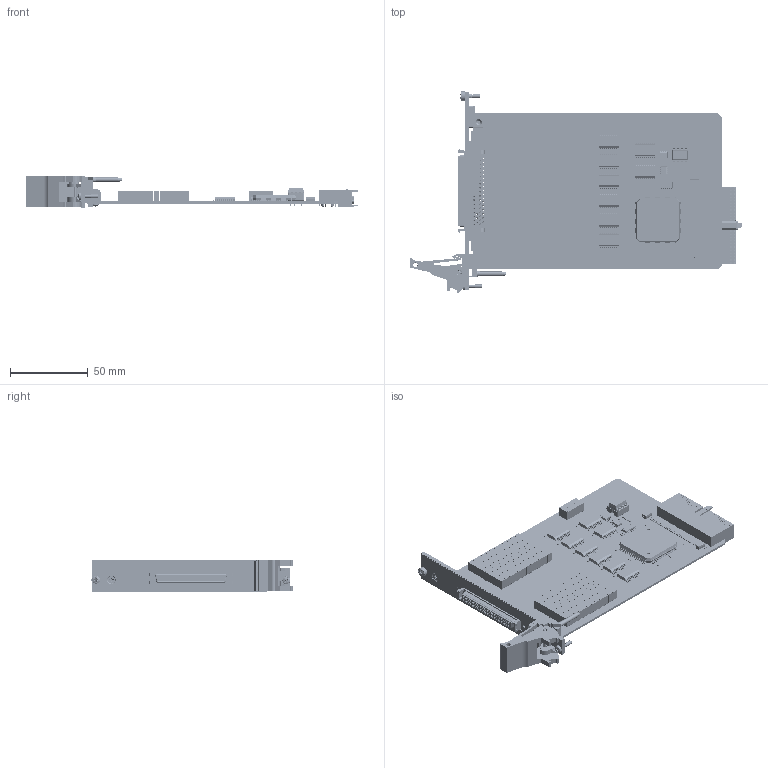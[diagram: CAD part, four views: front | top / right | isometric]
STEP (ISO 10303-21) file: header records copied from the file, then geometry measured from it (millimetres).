
FILE_DESCRIPTION (( 'STEP AP214' ), '1' );
FILE_NAME ('40-632-021-48-1 48CH 1POLE MUX.STEP', '2018-04-03T09:44:51', ( '' ), ( '' ), 'SwSTEP 2.0', 'SolidWorks 2017', '' );
FILE_SCHEMA (( 'AUTOMOTIVE_DESIGN' ));
Length unit declared in the file: millimetre
Products named in the file (39): C-FX-025 Pcb Mounting Bracket; C-FX-165 CPCI Ejector Handle; C-RS-085 Res 150R 0805; C-FX-042 Screw M2.5x6 CSK Pozi_M 2.5x06 - C-FX-042; C-BK-026 Bush Front Panel Mounting; A-PC-196-# PXI Config MUX PCB Assy; C-IC-087 IC 74HCT32D Logic IC Smt_No Text; C-RS-102 RES 4x10R 1206 1-16W 5% 200PPM; C-IC-090 IC M 93C56_No Text; L-FX-165 PXI Handle Label; C-RS-079 Res N-W 4x10K 1206 CRA3A4E10K; C-FX-101 M2.5x6mm Pan Head Cross Recess Screw_ISO_ISO 7045 - M2.5 x 6 - Z --- 6N; C-FX-165 Handle Pin; C-FX-524 Screw 2-56UNC 3-16`` PanHD Pozi_ISO 7045 - M2.5 x 6 - Z --- 6N; L-FP-148 Label Assy; A-PC-196-V04 PXI 24CH 2PL MUX; C-CN-363 Connector female SCSI 68-pin; L-FP-148-# Label for C-FP-148; P-FX-017 M2,5 Collar Posi-Slot Screw; C-IC-099 DIP8 Package_No Text; C-BP-015 PXI 3U x 1 Slot Blank Panel; C-FX-165 Handle Finger; C-IC-102 IC 74ACT273 SMD_Without Pckage Description; C-IC-100 IC 74HCT273 SMD_Without Pckage Description; C-PC-196 PXI MULTIPLEXER CONFIG; C-IC-056 IC TL7705ACD SMT_No Text; C-IC-101 IC 74HCT244 SMD; C-CP-160 Cap 10uF 16V Tant Smt (C.CASE); Z-FX-2001 FP Fixing - Bush + Screw; A-FP-148 Front Panel C-FP-148 Assembly; C-IC-219 PLX PCI9052; C-CN-355 Compact pci connector 3_Render; C-FP-148 PXI 1-Slot SCSI 68 Way; 40-632-021-48-1 48CH 1POLE MUX; C-FX-165 Handle Body; C-CN-035 SOCKET IC 8 WAY DIL low profil_Vychoz｡; C-CP-034; C-RL-096 109P-1-A-5-471D; A-FP-148-L1 PXI 1-slot SCSI 68 WAY
Assembly tree (130 placements, depth 5):
  40-632-021-48-1 48CH 1POLE MUX
    A-PC-196-V04 PXI 24CH 2PL MUX
      A-PC-196-# PXI Config MUX PCB Assy
        C-PC-196 PXI MULTIPLEXER CONFIG
        C-CN-355 Compact pci connector 3_Render
        C-IC-219 PLX PCI9052
        C-IC-099 DIP8 Package_No Text
        C-CN-035 SOCKET IC 8 WAY DIL low profil_Vychoz｡
        C-CN-363 Connector female SCSI 68-pin
        C-CP-160 Cap 10uF 16V Tant Smt (C.CASE)  x2
        C-RS-102 RES 4x10R 1206 1-16W 5% 200PPM  x12
        C-FX-524 Screw 2-56UNC 3-16`` PanHD Pozi_ISO 7045 - M2.5 x 6 - Z --- 6N  x2
        C-IC-056 IC TL7705ACD SMT_No Text
        C-IC-090 IC M 93C56_No Text
        C-IC-101 IC 74HCT244 SMD
        C-IC-100 IC 74HCT273 SMD_Without Pckage Description
        C-IC-087 IC 74HCT32D Logic IC Smt_No Text
        C-RS-079 Res N-W 4x10K 1206 CRA3A4E10K  x2
        C-IC-102 IC 74ACT273 SMD_Without Pckage Description  x6
        C-CP-034  x22
        C-RS-085 Res 150R 0805
      C-RL-096 109P-1-A-5-471D  x49
    C-RL-096 109P-1-A-5-471D
    A-FP-148-L1 PXI 1-slot SCSI 68 WAY
      A-FP-148 Front Panel C-FP-148 Assembly
        C-FP-148 PXI 1-Slot SCSI 68 Way
          C-BP-015 PXI 3U x 1 Slot Blank Panel
        L-FP-148 Label Assy
          L-FP-148-# Label for C-FP-148
      Z-FX-2001 FP Fixing - Bush + Screw
        C-BK-026 Bush Front Panel Mounting
        P-FX-017 M2,5 Collar Posi-Slot Screw
      C-FX-165 CPCI Ejector Handle
        C-FX-165 Handle Body
        C-FX-165 Handle Finger
        C-FX-165 Handle Pin
        P-FX-017 M2,5 Collar Posi-Slot Screw
        L-FX-165 PXI Handle Label
      C-FX-025 Pcb Mounting Bracket
      C-FX-042 Screw M2.5x6 CSK Pozi_M 2.5x06 - C-FX-042
      C-FX-101 M2.5x6mm Pan Head Cross Recess Screw_ISO_ISO 7045 - M2.5 x 6 - Z --- 6N
    C-FX-101 M2.5x6mm Pan Head Cross Recess Screw_ISO_ISO 7045 - M2.5 x 6 - Z --- 6N  x2
Bounding box: 213.99 x 129.67 x 20 mm (x, y, z)
Volume: 70129.5 mm3; surface area: 94911.7 mm2
Topology: 196 solids, 223 shells, 29398 faces, 76340 edges, 49950 vertices
Faces by surface type: plane 21696, bspline 4001, cylinder 3368, cone 239, torus 71, sphere 23
Entity records: 384502 total; most frequent: CARTESIAN_POINT 63488, ORIENTED_EDGE 52116, DIRECTION 50061, EDGE_CURVE 26060, LINE 20887, VECTOR 20887, VERTEX_POINT 16878, AXIS2_PLACEMENT_3D 14587
